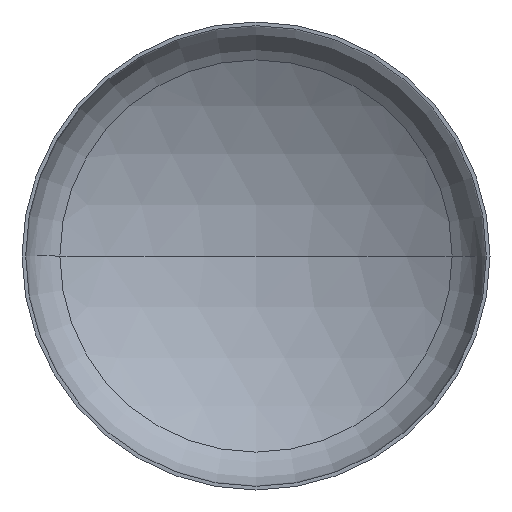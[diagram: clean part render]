
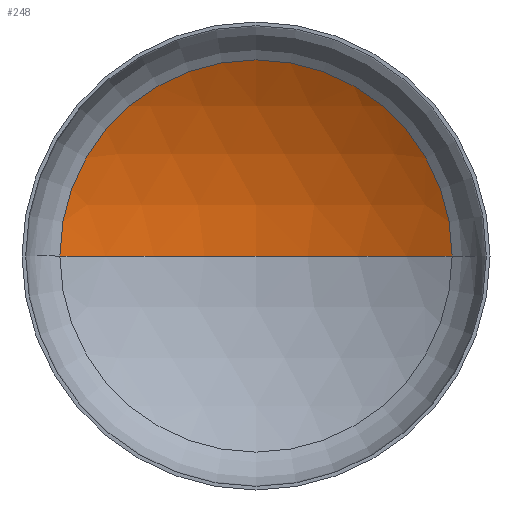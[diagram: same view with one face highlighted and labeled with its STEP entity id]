
A CAD part, front view. The second image highlights one B-rep face of the part: STEP entity #248.
In plain terms, the highlighted spherical face has radius 4400 mm.
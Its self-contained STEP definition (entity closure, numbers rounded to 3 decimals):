
#2 = CIRCLE ( 'NONE', #40, 2304.585 ) ;
#8 = ORIENTED_EDGE ( 'NONE', *, *, #329, .T. ) ;
#14 = VERTEX_POINT ( 'NONE', #245 ) ;
#32 = DIRECTION ( 'NONE',  ( 1., 0., 0. ) ) ;
#40 = AXIS2_PLACEMENT_3D ( 'NONE', #355, #327, #32 ) ;
#72 = DIRECTION ( 'NONE',  ( -1., 0., 0. ) ) ;
#77 = ORIENTED_EDGE ( 'NONE', *, *, #315, .T. ) ;
#78 = VERTEX_POINT ( 'NONE', #172 ) ;
#86 = ORIENTED_EDGE ( 'NONE', *, *, #294, .F. ) ;
#109 = SPHERICAL_SURFACE ( 'NONE', #261, 4400. ) ;
#132 = CIRCLE ( 'NONE', #370, 4400. ) ;
#143 = EDGE_LOOP ( 'NONE', ( #86, #77, #8 ) ) ;
#144 = DIRECTION ( 'NONE',  ( -1., 0., 0. ) ) ;
#147 = CARTESIAN_POINT ( 'NONE',  ( 2304.585, 849.822, 0. ) ) ;
#158 = DIRECTION ( 'NONE',  ( 1., 0., 0. ) ) ;
#172 = CARTESIAN_POINT ( 'NONE',  ( 0., 1501.637, 0. ) ) ;
#182 = VERTEX_POINT ( 'NONE', #147 ) ;
#192 = CARTESIAN_POINT ( 'NONE',  ( 0., -2898.363, 0. ) ) ;
#218 = CIRCLE ( 'NONE', #400, 4400. ) ;
#239 = FACE_OUTER_BOUND ( 'NONE', #143, .T. ) ;
#245 = CARTESIAN_POINT ( 'NONE',  ( -2304.585, 849.822, 0. ) ) ;
#248 = ADVANCED_FACE ( 'NONE', ( #239 ), #109, .F. ) ;
#261 = AXIS2_PLACEMENT_3D ( 'NONE', #397, #296, #144 ) ;
#279 = DIRECTION ( 'NONE',  ( 0., 0., -1. ) ) ;
#294 = EDGE_CURVE ( 'NONE', #78, #14, #132, .T. ) ;
#296 = DIRECTION ( 'NONE',  ( 0., 0., -1. ) ) ;
#315 = EDGE_CURVE ( 'NONE', #78, #182, #218, .T. ) ;
#327 = DIRECTION ( 'NONE',  ( 0., -1., 0. ) ) ;
#329 = EDGE_CURVE ( 'NONE', #182, #14, #2, .T. ) ;
#331 = DIRECTION ( 'NONE',  ( 0., 0., 1. ) ) ;
#355 = CARTESIAN_POINT ( 'NONE',  ( 0., 849.822, 0. ) ) ;
#370 = AXIS2_PLACEMENT_3D ( 'NONE', #380, #331, #158 ) ;
#380 = CARTESIAN_POINT ( 'NONE',  ( 0., -2898.363, 0. ) ) ;
#397 = CARTESIAN_POINT ( 'NONE',  ( 0., -2898.363, 0. ) ) ;
#400 = AXIS2_PLACEMENT_3D ( 'NONE', #192, #279, #72 ) ;
